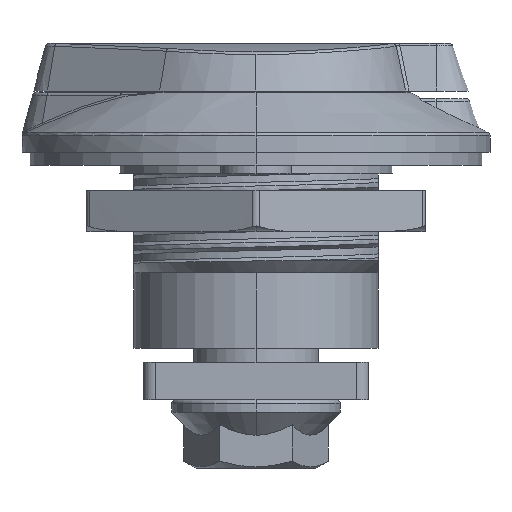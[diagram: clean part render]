
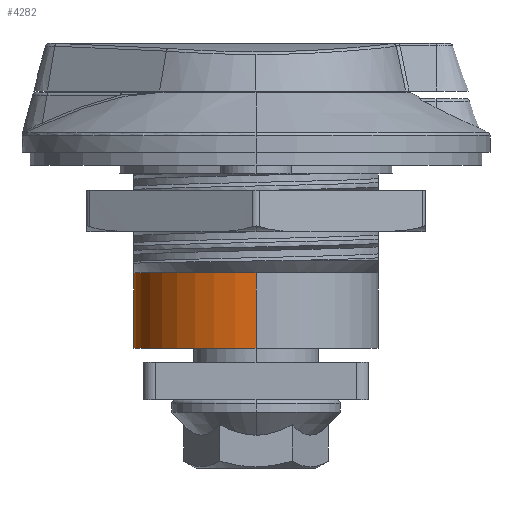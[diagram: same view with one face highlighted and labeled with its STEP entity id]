
A CAD part, left-side view. The second image highlights one B-rep face of the part: STEP entity #4282.
In plain terms, the highlighted cylindrical face has radius 9.75 mm (diameter 19.5 mm), a partial arc.
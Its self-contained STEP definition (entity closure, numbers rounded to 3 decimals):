
#879 = CARTESIAN_POINT ( 'NONE',  ( 0., 0., -22.2 ) ) ;
#1010 = VECTOR ( 'NONE', #34446, 1000. ) ;
#1669 = CARTESIAN_POINT ( 'NONE',  ( -9.75, 0., -35.4 ) ) ;
#1871 = EDGE_LOOP ( 'NONE', ( #23571, #3320, #28375, #6969, #35797 ) ) ;
#2514 = CIRCLE ( 'NONE', #12751, 9.75 ) ;
#3320 = ORIENTED_EDGE ( 'NONE', *, *, #10120, .T. ) ;
#4282 = ADVANCED_FACE ( 'NONE', ( #26687 ), #21041, .T. ) ;
#4421 = CARTESIAN_POINT ( 'NONE',  ( -9.75, 0., -41.4 ) ) ;
#4474 = DIRECTION ( 'NONE',  ( 0., 0., 1. ) ) ;
#5122 = AXIS2_PLACEMENT_3D ( 'NONE', #879, #32933, #12375 ) ;
#6969 = ORIENTED_EDGE ( 'NONE', *, *, #16244, .T. ) ;
#7172 = EDGE_CURVE ( 'NONE', #24806, #25423, #12779, .T. ) ;
#8120 = DIRECTION ( 'NONE',  ( 1., 0., 0. ) ) ;
#8211 = DIRECTION ( 'NONE',  ( -1., 0., 0. ) ) ;
#10120 = EDGE_CURVE ( 'NONE', #34404, #23246, #17667, .T. ) ;
#10284 = AXIS2_PLACEMENT_3D ( 'NONE', #13968, #19619, #8120 ) ;
#11123 = AXIS2_PLACEMENT_3D ( 'NONE', #25850, #17578, #14941 ) ;
#12015 = VERTEX_POINT ( 'NONE', #35773 ) ;
#12375 = DIRECTION ( 'NONE',  ( 1., 0., 0. ) ) ;
#12751 = AXIS2_PLACEMENT_3D ( 'NONE', #19891, #22528, #8211 ) ;
#12779 = LINE ( 'NONE', #33144, #20304 ) ;
#13968 = CARTESIAN_POINT ( 'NONE',  ( 0., 0., -41.4 ) ) ;
#14941 = DIRECTION ( 'NONE',  ( -1., 0., 0. ) ) ;
#16244 = EDGE_CURVE ( 'NONE', #12015, #25423, #2514, .T. ) ;
#17480 = CARTESIAN_POINT ( 'NONE',  ( -9.75, 0., -22.2 ) ) ;
#17578 = DIRECTION ( 'NONE',  ( 0., 0., -1. ) ) ;
#17667 = LINE ( 'NONE', #17480, #1010 ) ;
#19619 = DIRECTION ( 'NONE',  ( 0., 0., 1. ) ) ;
#19891 = CARTESIAN_POINT ( 'NONE',  ( 0., 0., -35.4 ) ) ;
#20304 = VECTOR ( 'NONE', #4474, 1000. ) ;
#21041 = CYLINDRICAL_SURFACE ( 'NONE', #5122, 9.75 ) ;
#22528 = DIRECTION ( 'NONE',  ( 0., 0., -1. ) ) ;
#23246 = VERTEX_POINT ( 'NONE', #1669 ) ;
#23571 = ORIENTED_EDGE ( 'NONE', *, *, #28624, .T. ) ;
#24806 = VERTEX_POINT ( 'NONE', #36873 ) ;
#25423 = VERTEX_POINT ( 'NONE', #28539 ) ;
#25850 = CARTESIAN_POINT ( 'NONE',  ( 0., 0., -35.4 ) ) ;
#26687 = FACE_OUTER_BOUND ( 'NONE', #1871, .T. ) ;
#28375 = ORIENTED_EDGE ( 'NONE', *, *, #33686, .T. ) ;
#28539 = CARTESIAN_POINT ( 'NONE',  ( 9.75, 0., -35.4 ) ) ;
#28624 = EDGE_CURVE ( 'NONE', #24806, #34404, #28892, .T. ) ;
#28892 = CIRCLE ( 'NONE', #10284, 9.75 ) ;
#32933 = DIRECTION ( 'NONE',  ( 0., 0., 1. ) ) ;
#33144 = CARTESIAN_POINT ( 'NONE',  ( 9.75, 0., -22.2 ) ) ;
#33686 = EDGE_CURVE ( 'NONE', #23246, #12015, #33842, .T. ) ;
#33842 = CIRCLE ( 'NONE', #11123, 9.75 ) ;
#34404 = VERTEX_POINT ( 'NONE', #4421 ) ;
#34446 = DIRECTION ( 'NONE',  ( 0., 0., 1. ) ) ;
#35773 = CARTESIAN_POINT ( 'NONE',  ( 0., 9.75, -35.4 ) ) ;
#35797 = ORIENTED_EDGE ( 'NONE', *, *, #7172, .F. ) ;
#36873 = CARTESIAN_POINT ( 'NONE',  ( 9.75, 0., -41.4 ) ) ;
